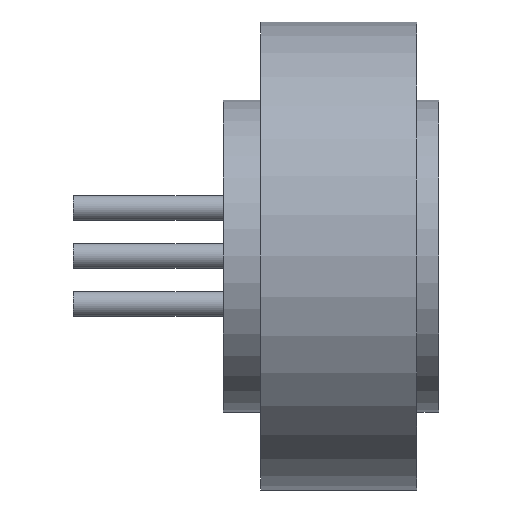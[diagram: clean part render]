
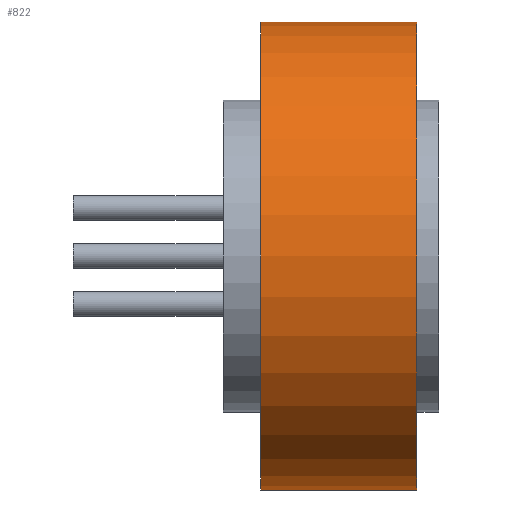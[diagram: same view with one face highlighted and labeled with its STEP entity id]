
A CAD part, left-side view. The second image highlights one B-rep face of the part: STEP entity #822.
In plain terms, the highlighted cylindrical face has radius 7.5 mm (diameter 15 mm), a partial arc.
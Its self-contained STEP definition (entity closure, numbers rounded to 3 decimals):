
#85 = ORIENTED_EDGE ( 'NONE', *, *, #356, .F. ) ;
#109 = DIRECTION ( 'NONE',  ( 0., -1., 0. ) ) ;
#136 = AXIS2_PLACEMENT_3D ( 'NONE', #648, #625, #729 ) ;
#168 = AXIS2_PLACEMENT_3D ( 'NONE', #270, #1152, #690 ) ;
#199 = VECTOR ( 'NONE', #109, 1000. ) ;
#203 = CARTESIAN_POINT ( 'NONE',  ( 0., 0., -7.5 ) ) ;
#212 = CIRCLE ( 'NONE', #948, 7.5 ) ;
#226 = EDGE_CURVE ( 'NONE', #748, #1086, #983, .T. ) ;
#270 = CARTESIAN_POINT ( 'NONE',  ( 0., 0., 0. ) ) ;
#283 = ORIENTED_EDGE ( 'NONE', *, *, #226, .T. ) ;
#295 = CARTESIAN_POINT ( 'NONE',  ( 0., 5., 7.5 ) ) ;
#296 = CARTESIAN_POINT ( 'NONE',  ( 0., 5., -7.5 ) ) ;
#315 = LINE ( 'NONE', #397, #199 ) ;
#336 = DIRECTION ( 'NONE',  ( 0., -1., 0. ) ) ;
#340 = EDGE_LOOP ( 'NONE', ( #1139, #85, #889, #283 ) ) ;
#356 = EDGE_CURVE ( 'NONE', #382, #674, #212, .T. ) ;
#382 = VERTEX_POINT ( 'NONE', #296 ) ;
#397 = CARTESIAN_POINT ( 'NONE',  ( 0., 5., 7.5 ) ) ;
#458 = EDGE_CURVE ( 'NONE', #382, #748, #649, .T. ) ;
#543 = VECTOR ( 'NONE', #336, 1000. ) ;
#596 = CARTESIAN_POINT ( 'NONE',  ( 0., 0., 7.5 ) ) ;
#625 = DIRECTION ( 'NONE',  ( 0., -1., 0. ) ) ;
#648 = CARTESIAN_POINT ( 'NONE',  ( 0., 5., 0. ) ) ;
#649 = LINE ( 'NONE', #942, #543 ) ;
#674 = VERTEX_POINT ( 'NONE', #295 ) ;
#690 = DIRECTION ( 'NONE',  ( 0., 0., 1. ) ) ;
#697 = CARTESIAN_POINT ( 'NONE',  ( 0., 5., 0. ) ) ;
#729 = DIRECTION ( 'NONE',  ( 0., 0., -1. ) ) ;
#748 = VERTEX_POINT ( 'NONE', #203 ) ;
#822 = ADVANCED_FACE ( 'NONE', ( #926 ), #1221, .T. ) ;
#889 = ORIENTED_EDGE ( 'NONE', *, *, #458, .T. ) ;
#926 = FACE_OUTER_BOUND ( 'NONE', #340, .T. ) ;
#942 = CARTESIAN_POINT ( 'NONE',  ( 0., 5., -7.5 ) ) ;
#948 = AXIS2_PLACEMENT_3D ( 'NONE', #697, #1124, #1096 ) ;
#983 = CIRCLE ( 'NONE', #168, 7.5 ) ;
#1086 = VERTEX_POINT ( 'NONE', #596 ) ;
#1096 = DIRECTION ( 'NONE',  ( 0., 0., 1. ) ) ;
#1097 = EDGE_CURVE ( 'NONE', #674, #1086, #315, .T. ) ;
#1124 = DIRECTION ( 'NONE',  ( 0., 1., 0. ) ) ;
#1139 = ORIENTED_EDGE ( 'NONE', *, *, #1097, .F. ) ;
#1152 = DIRECTION ( 'NONE',  ( 0., 1., 0. ) ) ;
#1221 = CYLINDRICAL_SURFACE ( 'NONE', #136, 7.5 ) ;
